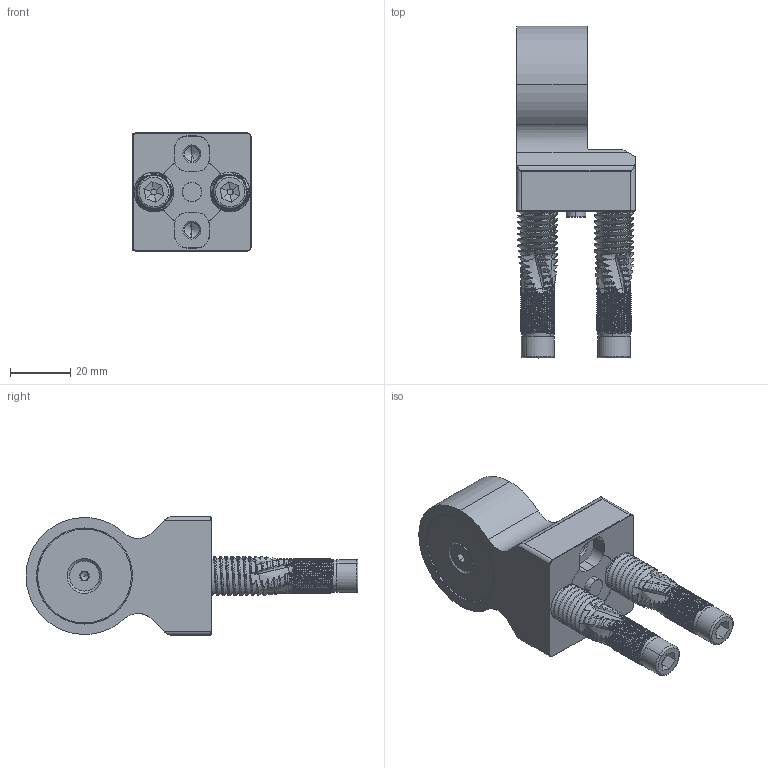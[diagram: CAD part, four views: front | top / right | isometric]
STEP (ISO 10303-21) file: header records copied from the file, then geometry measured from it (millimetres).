
FILE_DESCRIPTION (( 'STEP AP214' ), '1' );
FILE_NAME ('40mm Pivot Bracket - End Mount Bearing Side(40MPI-0411-014-00).STEP', '2023-08-30T17:36:41', ( '' ), ( '' ), 'SwSTEP 2.0', 'SolidWorks 2020', '' );
FILE_SCHEMA (( 'AUTOMOTIVE_DESIGN' ));
Products named in the file (1): 40mm Pivot Bracket - End Mount Bearing Side(40MPI-0411-014-00)
Bounding box: 39.45 x 110.65 x 39.5 mm (x, y, z)
Volume: 59899.2 mm3; surface area: 32921.7 mm2
Topology: 10 solids, 11 shells, 1143 faces, 3118 edges, 2011 vertices
Faces by surface type: bspline 422, cylinder 341, plane 175, cone 149, torus 56
Entity records: 493400 total; most frequent: CARTESIAN_POINT 470361, ORIENTED_EDGE 6216, EDGE_CURVE 3108, DIRECTION 2985, VERTEX_POINT 2011, B_SPLINE_CURVE_WITH_KNOTS 1340, EDGE_LOOP 1185, AXIS2_PLACEMENT_3D 1179
